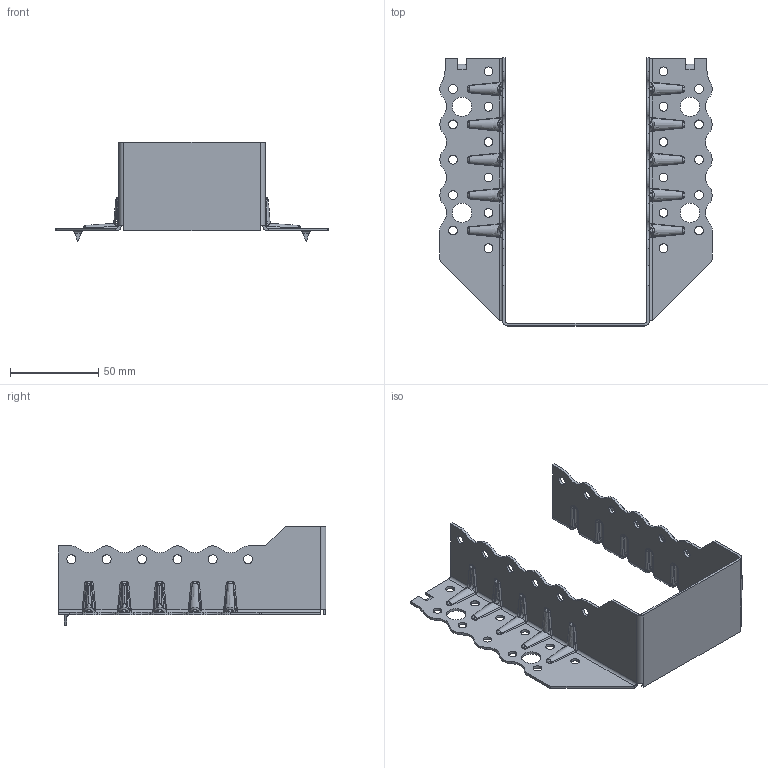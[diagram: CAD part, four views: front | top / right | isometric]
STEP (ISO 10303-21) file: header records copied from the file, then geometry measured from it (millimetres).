
FILE_DESCRIPTION (( 'STEP AP203' ), '1' );
FILE_NAME ('30620TOPK.STEP', '2020-04-07T09:16:14', ( '' ), ( '' ), 'SwSTEP 2.0', 'SolidWorks 2013', '' );
FILE_SCHEMA (( 'CONFIG_CONTROL_DESIGN' ));
Length unit declared in the file: millimetre
Products named in the file (1): 30620TOPK
Bounding box: 154 x 151.5 x 56 mm (x, y, z)
Volume: 36034.3 mm3; surface area: 50652.2 mm2
Topology: 1 solids, 1 shells, 736 faces, 1880 edges, 1128 vertices
Faces by surface type: bspline 290, cylinder 282, plane 134, cone 30
Entity records: 46604 total; most frequent: CARTESIAN_POINT 31200, ORIENTED_EDGE 3724, DIRECTION 2258, EDGE_CURVE 1862, VERTEX_POINT 1128, EDGE_LOOP 812, B_SPLINE_CURVE_WITH_KNOTS 800, AXIS2_PLACEMENT_3D 797
